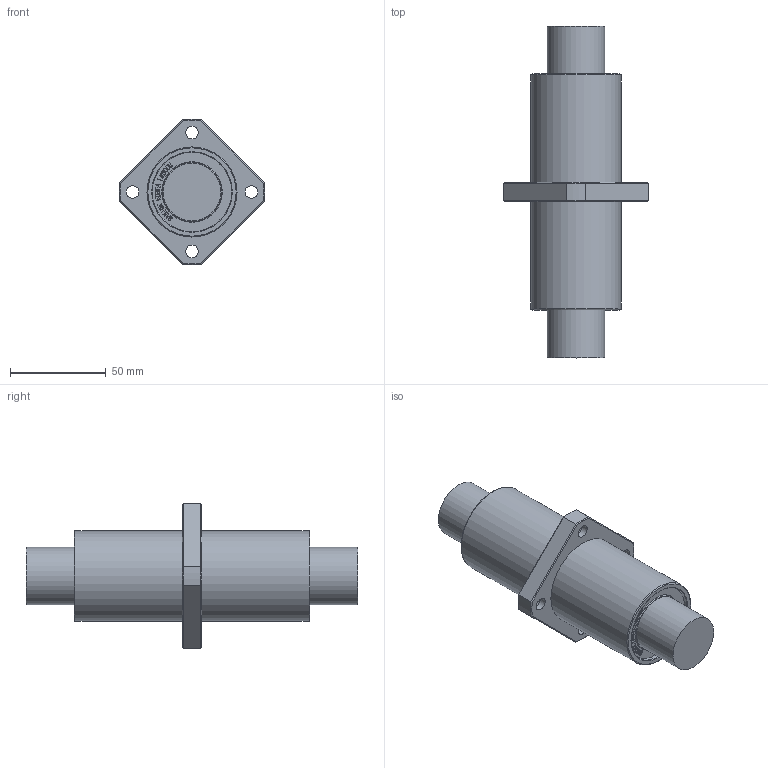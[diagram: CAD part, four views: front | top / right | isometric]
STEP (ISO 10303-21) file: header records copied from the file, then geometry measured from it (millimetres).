
FILE_DESCRIPTION(/* description */ (''),/* implementation_level */ '2;1');
FILE_NAME(/* name */ 'W:\(01) 2024년 홈페이지 CAD파일 최신화\LMEKM\IPT\LMEKM30UU.stp',/* time_stamp */ '2025-01-25T13:17:06+09:00',/* author */ ('서우현'),/* organization */ (''),/* preprocessor_version */ 'ST-DEVELOPER v17.2',/* originating_system */ 'Autodesk Inventor 2019',/* authorisation */ '');
FILE_SCHEMA (('AUTOMOTIVE_DESIGN { 1 0 10303 214 3 1 1 }'));
Length unit declared in the file: millimetre
Products named in the file (1): LM5
Bounding box: 75.93 x 173 x 75.93 mm (x, y, z)
Volume: 260657.3 mm3; surface area: 32376.2 mm2
Topology: 1 solids, 1 shells, 882 faces, 2480 edges, 1656 vertices
Faces by surface type: bspline 616, plane 234, cylinder 18, cone 12, torus 2
Full cylindrical faces by diameter (mm): 6.6 x4, 11 x4, 30 x2, 41.4 x2, 47 x2
Entity records: 30315 total; most frequent: CARTESIAN_POINT 11291, ORIENTED_EDGE 4960, EDGE_CURVE 2480, DIRECTION 1848, VERTEX_POINT 1656, B_SPLINE_CURVE_WITH_KNOTS 1232, LINE 1150, VECTOR 1150
